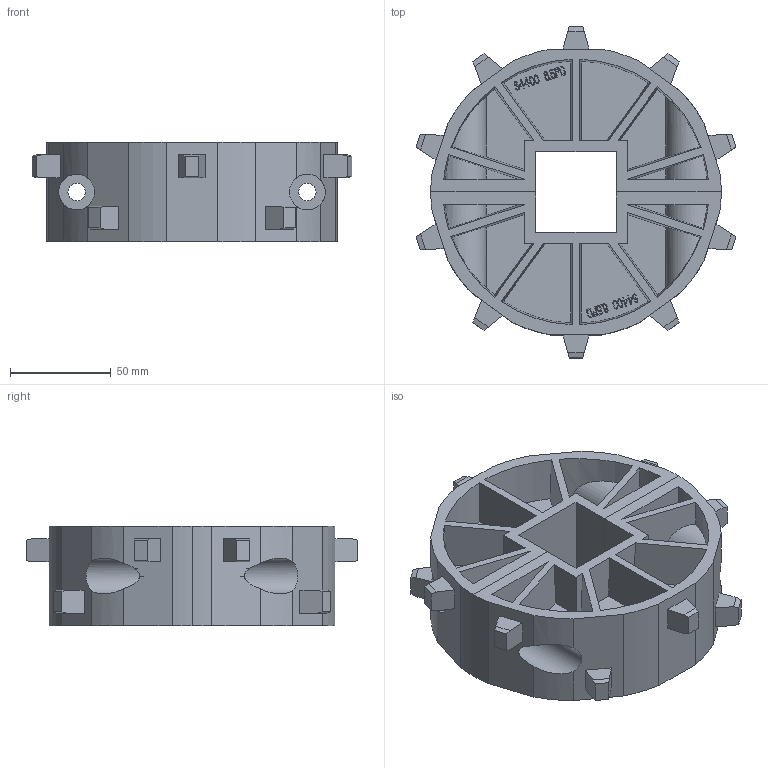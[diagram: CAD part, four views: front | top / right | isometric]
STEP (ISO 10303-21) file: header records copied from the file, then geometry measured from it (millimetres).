
FILE_DESCRIPTION((''),'2;1');
FILE_NAME('S4400_SPLIT_65X15_40_SQ_ASM','2015-04-21T',('cmaheu'),('INTRALOX'),'PRO/ENGINEER BY PARAMETRIC TECHNOLOGY CORPORATION, 2009460','PRO/ENGINEER BY PARAMETRIC TECHNOLOGY CORPORATION, 2009460','');
FILE_SCHEMA(('CONFIG_CONTROL_DESIGN'));
Length unit declared in the file: inch
Products named in the file (3): S4400_SPLIT_65X15_40_SQ_N_AF0; S4400_SPLIT_65X15_40_SQ_B_AF0; S4400_SPLIT_65X15_40_SQ_ASM
Assembly tree (2 placements, depth 2):
  S4400_SPLIT_65X15_40_SQ_ASM
    S4400_SPLIT_65X15_40_SQ_N_AF0
    S4400_SPLIT_65X15_40_SQ_B_AF0
Bounding box: 158.56 x 164.5 x 49.53 mm (x, y, z)
Volume: 352903.9 mm3; surface area: 137492.2 mm2
Topology: 2 solids, 2 shells, 1538 faces, 4252 edges, 2832 vertices
Faces by surface type: plane 1212, cylinder 264, cone 62
Entity records: 49418 total; most frequent: CARTESIAN_POINT 9591, ORIENTED_EDGE 8504, DIRECTION 7834, EDGE_CURVE 4252, VECTOR 3508, LINE 3508, VERTEX_POINT 2832, AXIS2_PLACEMENT_3D 2163
